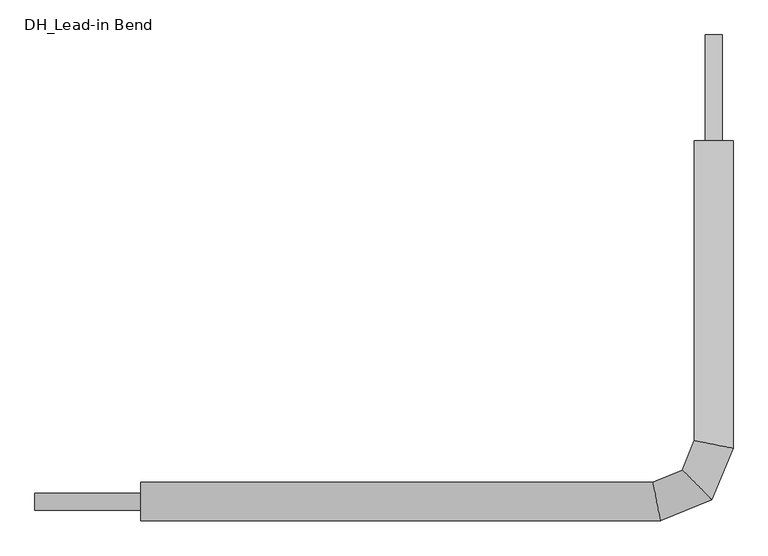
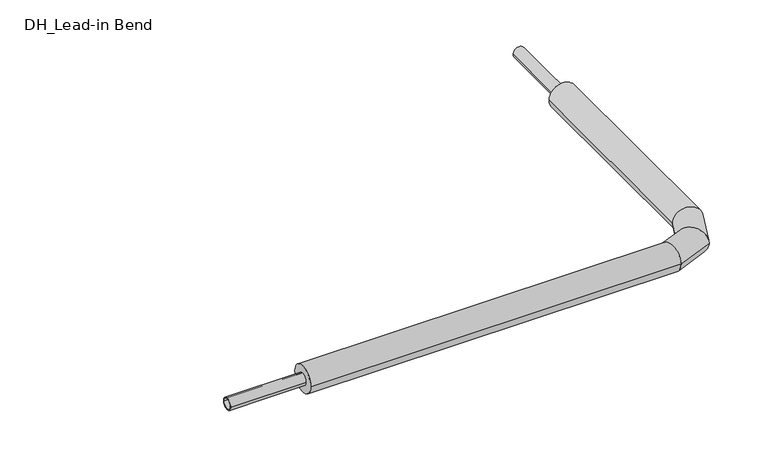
"""IFC4 building model written with IfcOpenShell, lengths in millimetres: pipe fitting geometry, DH_Lead-in Bend : RVT/RVX/RTX UNO 11 Heating."""

from ifc_helpers import new_model, si_unit, point, frame, origin, origin_2d, place, context, project, spatial, circle_curve, ellipse_curve, trimmed, segment, composite_curve, outline, extrude, source, transform, mapped, element, save
from ifc_brep_helpers import plane_surface, cylinder_surface, advanced_brep


def dh_lead_in_bend_a8513684(model_context):
    return source(origin(), model_context, "Body", "SolidModel", [
        advanced_brep(
        [(-1350.0, -45.5, 0.0), (-1350.0, 45.5, 0.0), (-126.0494873, -45.5, 0.0), (-144.1505127, 45.5, 0.0), (45.5, 850.0, 0.0), (-45.5, 850.0, 0.0), (-45.5, 144.1505127, 0.0), (45.5, 126.0494873, 0.0), (-4.7456815, 4.7456815, 0.0), (-74.3940662, 74.3940662, 0.0)],
        [
            (0, 1, circle_curve(frame((-1350.0, 0.0, 0.0), z_axis=(-1.0, 0.0, 0.0), x_axis=(0.0, 1.0, 0.0)), 45.5)),
            (1, 0, circle_curve(frame((-1350.0, 0.0, 0.0), z_axis=(-1.0, 0.0, 0.0), x_axis=(0.0, 1.0, 0.0)), 45.5)),
            (0, 2),
            (2, 3, ellipse_curve(frame((-135.1, 0.0, 0.0), z_axis=(-0.9807852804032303, -0.19509032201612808, 0.0), x_axis=(-0.19509032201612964, 0.9807852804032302, 0.0)), 46.3913977, 45.5)),
            (3, 1),
            (3, 2, ellipse_curve(frame((-135.1, 0.0, 0.0), z_axis=(-0.9807852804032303, -0.19509032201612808, 0.0), x_axis=(-0.19509032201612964, 0.9807852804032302, 0.0)), 46.3913977, 45.5)),
            (4, 5, circle_curve(frame((0.0, 850.0, 0.0), z_axis=(0.0, 1.0, 0.0), x_axis=(-1.0, 0.0, 0.0)), 45.5)),
            (5, 4, circle_curve(frame((0.0, 850.0, 0.0), z_axis=(0.0, 1.0, 0.0), x_axis=(-1.0, 0.0, 0.0)), 45.5)),
            (6, 7, ellipse_curve(frame((0.0, 135.1, 0.0), z_axis=(0.19509032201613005, 0.9807852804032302, 0.0), x_axis=(0.9807852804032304, -0.1950903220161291, 0.0)), 46.3913977, 45.5)),
            (7, 4),
            (5, 6),
            (7, 6, ellipse_curve(frame((0.0, 135.1, 0.0), z_axis=(0.19509032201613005, 0.9807852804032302, 0.0), x_axis=(0.9807852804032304, -0.1950903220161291, 0.0)), 46.3913977, 45.5)),
            (2, 8),
            (8, 9, ellipse_curve(frame((-39.5698739, 39.5698739, 0.0), z_axis=(-0.707106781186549, -0.707106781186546, 0.0), x_axis=(-0.7071067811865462, 0.7071067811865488, 0.0)), 49.2488451, 45.5)),
            (9, 3),
            (9, 8, ellipse_curve(frame((-39.5698739, 39.5698739, 0.0), z_axis=(-0.707106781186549, -0.707106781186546, 0.0), x_axis=(-0.7071067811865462, 0.7071067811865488, 0.0)), 49.2488451, 45.5)),
            (8, 7),
            (6, 9),
        ],
        [
            plane_surface(frame((-1350.0, 0.0, 0.0), z_axis=(-1.0, 0.0, 0.0), x_axis=(0.0, 0.0, 1.0))),
            cylinder_surface(frame((-1350.0, 0.0, 0.0), z_axis=(-1.0, 0.0, 0.0), x_axis=(0.0, 1.0, 0.0)), 45.5),
            plane_surface(frame((0.0, 850.0, 0.0), z_axis=(0.0, 1.0, 0.0), x_axis=(0.0, 0.0, 1.0))),
            cylinder_surface(frame((0.0, 135.1, 0.0), z_axis=(0.0, -1.0, 0.0), x_axis=(-1.0, 0.0, 0.0)), 45.5),
            cylinder_surface(frame((-135.1, 0.0, 0.0), z_axis=(-0.9238795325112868, -0.3826834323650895, 0.0), x_axis=(-0.3826834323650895, 0.9238795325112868, 0.0)), 45.5),
            cylinder_surface(frame((-39.5698739, 39.5698739, 0.0), z_axis=(-0.38268343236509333, -0.9238795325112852, 0.0), x_axis=(-0.9238795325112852, 0.38268343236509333, 0.0)), 45.5),
        ],
        [
            (0, [[1, 2]]),
            (1, [[-1, 3, 4, 5]]),
            (1, [[-2, -5, 6, -3]]),
            (2, [[7, 8]]),
            (3, [[9, 10, -8, 11]]),
            (3, [[12, -11, -7, -10]]),
            (4, [[-4, 13, 14, 15]]),
            (4, [[-6, -15, 16, -13]]),
            (5, [[-14, 17, -9, 18]]),
            (5, [[-16, -18, -12, -17]]),
        ],
    ),
        extrude(outline(composite_curve([segment(trimmed(circle_curve(origin_2d(), 20.0), [point((-20.0, 0.0))], [point((20.0, 0.0))], False, "CARTESIAN"), True, "CONTINUOUS"), segment(trimmed(circle_curve(origin_2d(), 20.0), [point((20.0, 0.0))], [point((-20.0, 0.0))], False, "CARTESIAN"), True, "CONTINUOUS")], self_intersect=False), holes=[composite_curve([segment(trimmed(circle_curve(origin_2d(), 16.3), [point((-16.3, 0.0))], [point((16.3, 0.0))], True, "CARTESIAN"), True, "CONTINUOUS"), segment(trimmed(circle_curve(origin_2d(), 16.3), [point((16.3, 0.0))], [point((-16.3, 0.0))], True, "CARTESIAN"), True, "CONTINUOUS")], self_intersect=False)]), frame((-1600.0, 0.0, 0.0), z_axis=(1.0, 0.0, 0.0), x_axis=(0.0, 1.0, 0.0)), (0.0, 0.0, 1.0), 250.0),
        extrude(outline(composite_curve([segment(trimmed(circle_curve(origin_2d(), 20.0), [point((0.0, 20.0))], [point((0.0, -20.0))], False, "CARTESIAN"), True, "CONTINUOUS"), segment(trimmed(circle_curve(origin_2d(), 20.0), [point((0.0, -20.0))], [point((0.0, 20.0))], False, "CARTESIAN"), True, "CONTINUOUS")], self_intersect=False), holes=[composite_curve([segment(trimmed(circle_curve(origin_2d(), 16.3), [point((0.0, 16.3))], [point((0.0, -16.3))], True, "CARTESIAN"), True, "CONTINUOUS"), segment(trimmed(circle_curve(origin_2d(), 16.3), [point((0.0, -16.3))], [point((0.0, 16.3))], True, "CARTESIAN"), True, "CONTINUOUS")], self_intersect=False)]), frame((0.0, 850.0, 0.0), z_axis=(0.0, 1.0, 0.0), x_axis=(0.0, 0.0, 1.0)), (0.0, 0.0, 1.0), 250.0),
    ])


if __name__ == "__main__":
    model = new_model("IFC4")
    model_context = context("Model", 3, world=origin())
    ifc_project = project(units=[si_unit("LENGTHUNIT", "METRE", prefix="MILLI")], contexts=[model_context])
    site = spatial("IfcSite", under=ifc_project)
    building = spatial("IfcBuilding", under=site)
    placement = place(None, origin())
    dh_lead_in_bend_shape = dh_lead_in_bend_a8513684(model_context)
    element("IfcPipeFitting", 1, ObjectType="DH_Lead-in Bend : RVT/RVX/RTX UNO 11 Heating", at=placement, inside=building, context=model_context, shape_type="MappedRepresentation", body=[
        mapped(dh_lead_in_bend_shape, transform((0.0, 0.0, 0.0), x_axis=(1.0, 0.0, 0.0), y_axis=(0.0, 1.0, 0.0), z_axis=(0.0, 0.0, 1.0))),
    ])
    save(model, "model.ifc")
